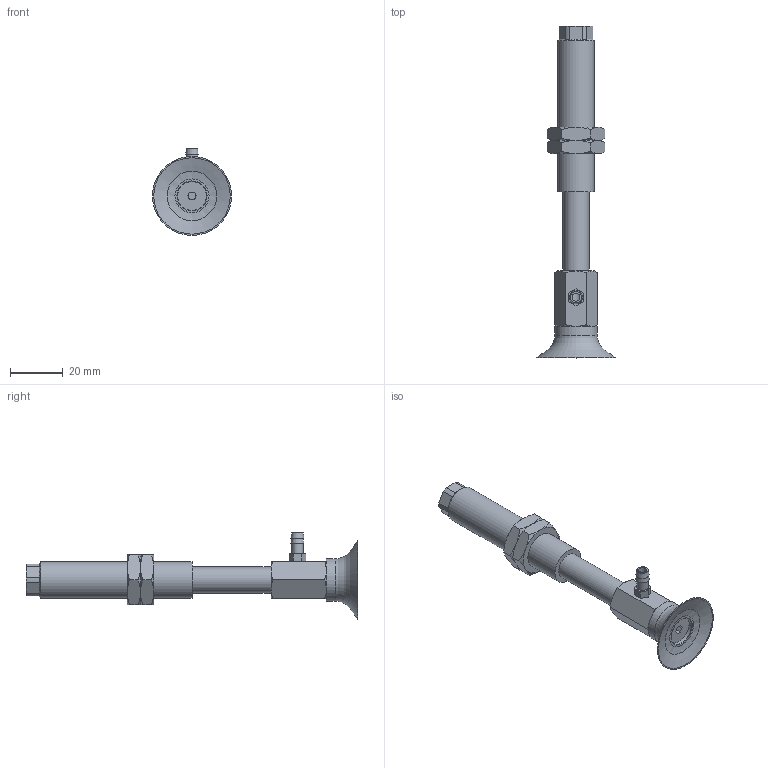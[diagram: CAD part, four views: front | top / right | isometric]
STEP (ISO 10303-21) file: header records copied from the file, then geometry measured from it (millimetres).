
FILE_DESCRIPTION(('STEP AP203'),'1');
FILE_NAME('-T.stp','2025-04-09T07:22:12',(' '),(' '),'Spatial InterOp 3D',' ',' ');
FILE_SCHEMA(('CONFIG_CONTROL_DESIGN'));
Length unit declared in the file: millimetre
Products named in the file (8): BNABPFYS-30-30-※-T; TN-PF-30-M6-NAPF; CONNECTOR-30-30; Nut-30-30-s; NAPFTS-30-30-FBODY; NAPFTS-30-30-MBODY; BPFG-30-※; T
Assembly tree (8 placements, depth 2):
  BNABPFYS-30-30-※-T
    TN-PF-30-M6-NAPF
    CONNECTOR-30-30
    Nut-30-30-s  x2
    NAPFTS-30-30-FBODY
    NAPFTS-30-30-MBODY
    BPFG-30-※
    T
Bounding box: 30 x 126 x 33 mm (x, y, z)
Volume: 19190 mm3; surface area: 15016 mm2
Topology: 8 solids, 8 shells, 163 faces, 339 edges, 206 vertices
Faces by surface type: plane 78, cone 54, cylinder 25, torus 5, bspline 1
Full cylindrical faces by diameter (mm): 3 x3, 4.134 x2, 4.3 x1, 4.917 x1, 5 x2, 6 x2, 10 x2, 11 x2, 12.917 x2, 14 x1, 16 x1
Entity records: 4209 total; most frequent: CARTESIAN_POINT 995, DIRECTION 596, ORIENTED_EDGE 500, EDGE_CURVE 250, AXIS2_PLACEMENT_3D 249, EDGE_LOOP 206, VERTEX_POINT 176, FACE_OUTER_BOUND 164
